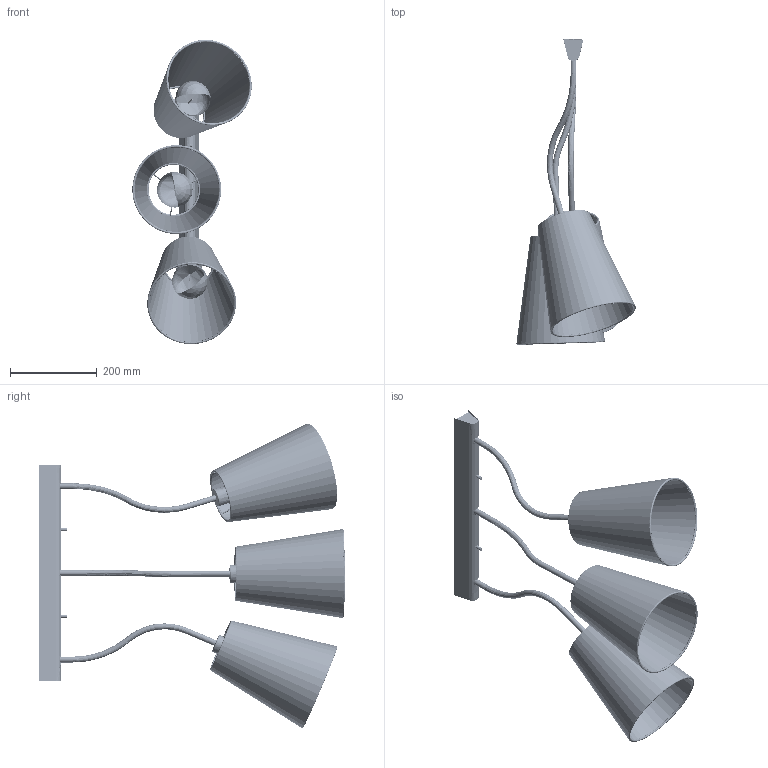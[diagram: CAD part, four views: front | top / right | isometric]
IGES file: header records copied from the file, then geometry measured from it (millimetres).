
Start section: SolidWorks IGES file using analytic representation for surfaces
Global section: file name: E:\3D lampy\Flex shade\Flex shade_9757,9763.IGS; native system: SolidWorks 2016; preprocessor: SolidWorks 2016; author: Asia; date: 170623.131001; units: millimetre
Bounding box: 275.28 x 704.81 x 701.84 mm (x, y, z)
Surface area: 1364470.9 mm2 (no closed solid volume)
Topology: 0 solids, 0 shells, 1199 faces, 20357 edges, 20354 vertices
Faces by surface type: revolution 678, bspline 521
